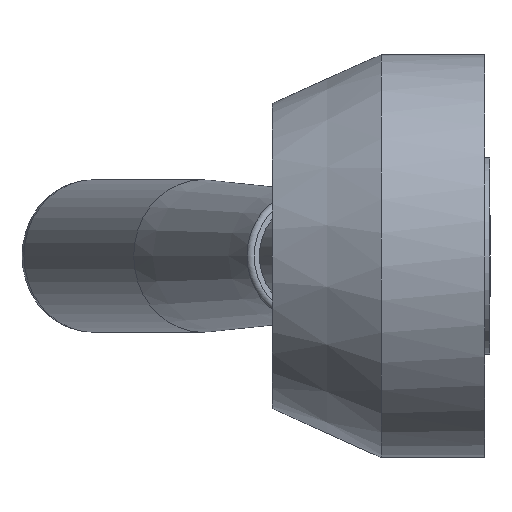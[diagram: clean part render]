
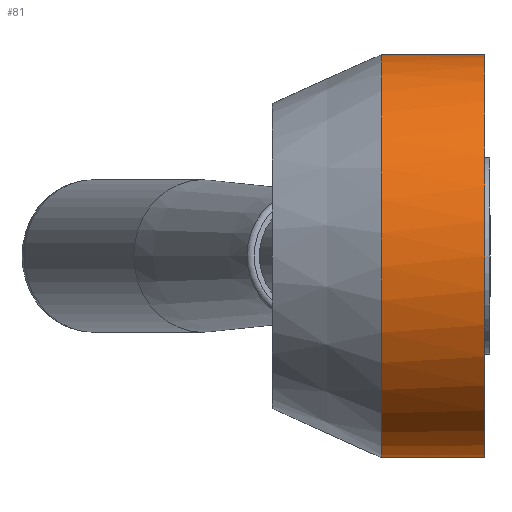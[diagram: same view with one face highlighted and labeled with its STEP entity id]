
A CAD part, left-side view. The second image highlights one B-rep face of the part: STEP entity #81.
In plain terms, the highlighted cylindrical face has radius 18.5 mm (diameter 37 mm), a full revolution.
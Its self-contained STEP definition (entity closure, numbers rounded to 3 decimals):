
#81 = ADVANCED_FACE( '', ( #135, #136 ), #137, .T. );
#135 = FACE_OUTER_BOUND( '', #236, .T. );
#136 = FACE_OUTER_BOUND( '', #237, .T. );
#137 = CYLINDRICAL_SURFACE( '', #238, 18.5 );
#236 = EDGE_LOOP( '', ( #369 ) );
#237 = EDGE_LOOP( '', ( #370, #371, #372, #373 ) );
#238 = AXIS2_PLACEMENT_3D( '', #374, #375, #376 );
#369 = ORIENTED_EDGE( '', *, *, #596, .F. );
#370 = ORIENTED_EDGE( '', *, *, #584, .F. );
#371 = ORIENTED_EDGE( '', *, *, #603, .T. );
#372 = ORIENTED_EDGE( '', *, *, #573, .F. );
#373 = ORIENTED_EDGE( '', *, *, #604, .F. );
#374 = CARTESIAN_POINT( '', ( 0., 0., 0. ) );
#375 = DIRECTION( '', ( 0., 1., 0. ) );
#376 = DIRECTION( '', ( 0., 0., -1. ) );
#573 = EDGE_CURVE( '', #644, #645, #646, .F. );
#584 = EDGE_CURVE( '', #663, #665, #666, .T. );
#596 = EDGE_CURVE( '', #688, #688, #689, .T. );
#603 = EDGE_CURVE( '', #663, #645, #702, .T. );
#604 = EDGE_CURVE( '', #665, #644, #703, .T. );
#644 = VERTEX_POINT( '', #763 );
#645 = VERTEX_POINT( '', #764 );
#646 = LINE( '', #765, #766 );
#663 = VERTEX_POINT( '', #793 );
#665 = VERTEX_POINT( '', #798 );
#666 = LINE( '', #799, #800 );
#688 = VERTEX_POINT( '', #826 );
#689 = CIRCLE( '', #827, 18.5 );
#702 = CIRCLE( '', #840, 18.5 );
#703 = CIRCLE( '', #841, 18.5 );
#763 = CARTESIAN_POINT( '', ( 16.258, 2., -8.827 ) );
#764 = CARTESIAN_POINT( '', ( 16.258, 10., -8.827 ) );
#765 = CARTESIAN_POINT( '', ( 16.258, 0., -8.827 ) );
#766 = VECTOR( '', #916, 1000. );
#793 = CARTESIAN_POINT( '', ( 16.258, 10., 8.827 ) );
#798 = CARTESIAN_POINT( '', ( 16.258, 2., 8.827 ) );
#799 = CARTESIAN_POINT( '', ( 16.258, 0., 8.827 ) );
#800 = VECTOR( '', #927, 1000. );
#826 = CARTESIAN_POINT( '', ( 0., 0.5, -18.5 ) );
#827 = AXIS2_PLACEMENT_3D( '', #953, #954, #955 );
#840 = AXIS2_PLACEMENT_3D( '', #974, #975, #976 );
#841 = AXIS2_PLACEMENT_3D( '', #977, #978, #979 );
#916 = DIRECTION( '', ( 0., -1., 0. ) );
#927 = DIRECTION( '', ( 0., -1., 0. ) );
#953 = CARTESIAN_POINT( '', ( 0., 0.5, 0. ) );
#954 = DIRECTION( '', ( 0., -1., 0. ) );
#955 = DIRECTION( '', ( 0., 0., -1. ) );
#974 = CARTESIAN_POINT( '', ( 0., 10., 0. ) );
#975 = DIRECTION( '', ( 0., -1., 0. ) );
#976 = DIRECTION( '', ( 0., 0., -1. ) );
#977 = CARTESIAN_POINT( '', ( 0., 2., 0. ) );
#978 = DIRECTION( '', ( 0., 1., 0. ) );
#979 = DIRECTION( '', ( 0., 0., 1. ) );
